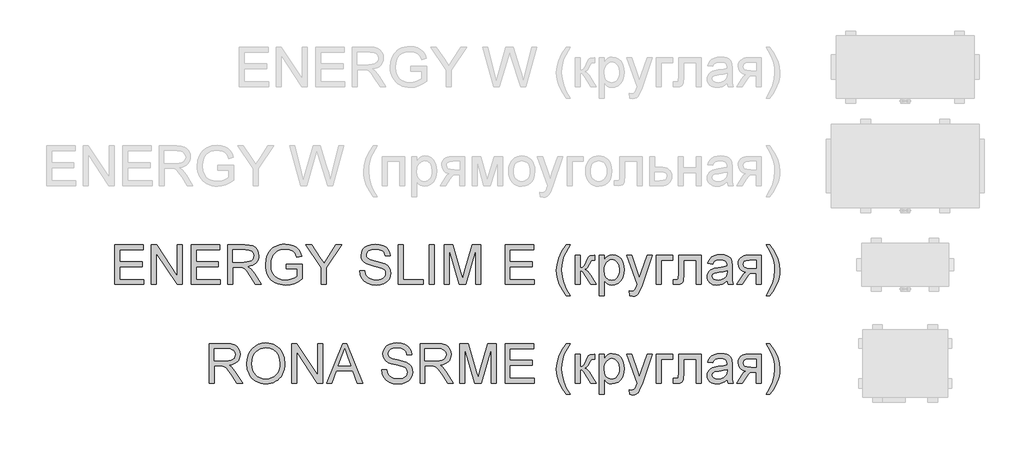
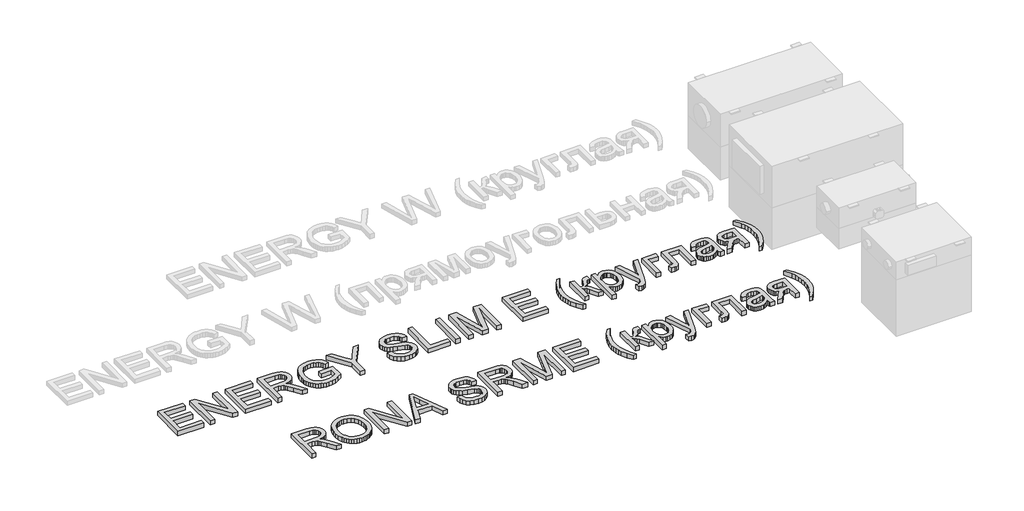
# One storey, part 21 of 28: 2 proxies.
"""IFC4 building model written with IfcOpenShell, lengths in millimetres."""

from ifc_helpers import new_model, si_unit, origin, origin_with_axes, place, context, project, spatial, polyline, outline, extrude, element, save

model = new_model("IFC4")

# Units and contexts
model_context = context("Model", 3, world=origin())
ifc_project = project(units=[si_unit("LENGTHUNIT", "METRE", prefix="MILLI")], contexts=[model_context])

# Site, building, storey
site = spatial("IfcSite", under=ifc_project)
building = spatial("IfcBuilding", under=site)
storey = spatial("IfcBuildingStorey", under=building, Name="Уровень 1", Elevation=0.0)

# Proxies
placement = place(None, origin())
element("IfcBuildingElementProxy", 1, Name="400 мм Arial", ObjectType="400 мм Arial", at=placement, inside=storey, context=model_context, shape_type="SweptSolid", body=[
    extrude(outline(polyline([(-28678.009371, 14271.3067858), (-28678.009371, 14673.1320263), (-28389.1974793, 14673.1320263), (-28389.1974793, 14622.9038713), (-28627.7812159, 14622.9038713), (-28627.7812159, 14503.612003), (-28401.7545181, 14503.612003), (-28401.7545181, 14453.3838479), (-28627.7812159, 14453.3838479), (-28627.7812159, 14321.5349408), (-28382.91896, 14321.5349408), (-28382.91896, 14271.3067858), (-28678.009371, 14271.3067858)])), origin_with_axes(), (0.0, 0.0, 1.0), 50.0),
    extrude(outline(polyline([(-28307.5767273, 14271.3067858), (-28307.5767273, 14673.1320263), (-28253.8169051, 14673.1320263), (-28043.8789132, 14354.7914732), (-28043.8789132, 14673.1320263), (-27993.6507581, 14673.1320263), (-27993.6507581, 14271.3067858), (-28047.4105804, 14271.3067858), (-28257.3485723, 14589.7454408), (-28257.3485723, 14271.3067858), (-28307.5767273, 14271.3067858)])), origin_with_axes(), (0.0, 0.0, 1.0), 50.0),
    extrude(outline(polyline([(-27905.7514867, 14271.3067858), (-27905.7514867, 14673.1320263), (-27616.9395951, 14673.1320263), (-27616.9395951, 14622.9038713), (-27855.5233317, 14622.9038713), (-27855.5233317, 14503.612003), (-27629.4966338, 14503.612003), (-27629.4966338, 14453.3838479), (-27855.5233317, 14453.3838479), (-27855.5233317, 14321.5349408), (-27610.6610757, 14321.5349408), (-27610.6610757, 14271.3067858), (-27905.7514867, 14271.3067858)])), origin_with_axes(), (0.0, 0.0, 1.0), 50.0),
    extrude(outline(polyline([(-27535.3188431, 14271.3067858), (-27535.3188431, 14673.1320263), (-27362.1690507, 14673.1320263), (-27315.6319783, 14670.4219623), (-27281.774572, 14662.2917702), (-27257.0283765, 14647.2821848), (-27237.8249363, 14623.9339409), (-27225.5008895, 14594.9816278), (-27221.3928739, 14563.1598353), (-27223.0943281, 14542.5216553), (-27228.1986908, 14523.5757326), (-27236.7059619, 14506.322067), (-27248.6161415, 14490.7606586), (-27264.0825137, 14477.3881481), (-27283.2583627, 14466.7011761), (-27306.1436885, 14458.6997427), (-27332.7384911, 14453.3838479), (-27304.1908482, 14431.8995394), (-27263.4785741, 14380.1998563), (-27196.475, 14271.3067858), (-27254.8456099, 14271.3067858), (-27307.1339042, 14354.5952695), (-27344.9031224, 14409.7285178), (-27358.9439518, 14425.804961), (-27371.439677, 14435.7745631), (-27395.3274812, 14445.3394949), (-27424.4637352, 14447.1053285), (-27485.090688, 14447.1053285), (-27485.090688, 14271.3067858), (-27535.3188431, 14271.3067858)]), holes=[polyline([(-27485.090688, 14497.3334836), (-27372.6659503, 14497.3334836), (-27340.3781738, 14499.1115799), (-27315.32541, 14504.4458688), (-27296.4653263, 14513.6919696), (-27282.7555906, 14527.2055016), (-27274.4046694, 14543.5517249), (-27271.6210289, 14561.2958998), (-27276.9307924, 14585.7968407), (-27292.8600828, 14605.5398411), (-27305.0216484, 14613.1366043), (-27320.2672914, 14618.5628637), (-27360.0108096, 14622.9038713), (-27485.090688, 14622.9038713), (-27485.090688, 14497.3334836)])]), origin_with_axes(), (0.0, 0.0, 1.0), 50.0),
    extrude(outline(polyline([(-26945.1380209, 14428.2697704), (-26945.1380209, 14478.4979254), (-26781.8965169, 14478.4979254), (-26781.8965169, 14328.3039695), (-26821.5664588, 14300.7128199), (-26862.4871994, 14280.9207686), (-26904.5606369, 14269.0013919), (-26947.6886694, 14265.0282664), (-26976.5398149, 14266.6070933), (-27004.0359284, 14271.343574), (-27030.1770098, 14279.2377084), (-27054.9630592, 14290.2894967), (-27077.5939333, 14304.3333919), (-27097.2694887, 14321.203847), (-27113.9897254, 14340.9008622), (-27127.7546433, 14363.4244373), (-27138.5059947, 14388.0541369), (-27146.1855313, 14414.0695253), (-27150.7932533, 14441.4706026), (-27152.3291606, 14470.2573687), (-27146.2100568, 14526.8498823), (-27138.561177, 14553.6654141), (-27127.8527452, 14579.4937958), (-27114.2748339, 14603.2007247), (-27098.0175154, 14623.651898), (-27079.0807897, 14640.8473156), (-27057.4646568, 14654.7869775), (-27033.6381662, 14665.5597886), (-27008.0703676, 14673.2546537), (-26980.7612608, 14677.8715727), (-26951.7108459, 14679.4105457), (-26910.3363842, 14675.8420904), (-26873.1312518, 14665.1367243), (-26841.7999685, 14648.0669997), (-26818.0470543, 14625.4054688), (-26800.4745577, 14596.0607484), (-26787.684527, 14558.941455), (-26833.9886075, 14545.893907), (-26844.3260915, 14572.3691479), (-26856.895393, 14592.3451402), (-26873.5236592, 14607.4037765), (-26896.0380373, 14619.1269495), (-26922.8811602, 14626.6685304), (-26952.4956608, 14629.1823907), (-26987.1624075, 14626.4723266), (-27016.8014336, 14618.3421345), (-27041.3023745, 14605.8096212), (-27060.5548656, 14589.8925936), (-27075.331459, 14571.4126547), (-27086.4047071, 14551.1914077), (-27098.1769309, 14513.2750367), (-27102.1010055, 14472.3175079), (-27097.3798533, 14424.2843821), (-27083.2163965, 14384.7615931), (-27060.0398308, 14354.0311837), (-27028.2793519, 14332.375197), (-26991.1110076, 14319.5361153), (-26951.7108459, 14315.2564214), (-26916.9214719, 14318.4815203), (-26882.9904892, 14328.1568167), (-26853.5231414, 14341.4864077), (-26832.124672, 14355.67439), (-26832.124672, 14428.2697704), (-26945.1380209, 14428.2697704)])), origin_with_axes(), (0.0, 0.0, 1.0), 50.0),
    extrude(outline(polyline([(-26587.262416, 14271.3067858), (-26587.262416, 14441.5135222), (-26744.2254006, 14673.1320263), (-26684.971874, 14673.1320263), (-26601.1928809, 14549.4255741), (-26558.3223657, 14486.3460747), (-26515.3537487, 14553.9382599), (-26439.324803, 14673.1320263), (-26380.0712763, 14673.1320263), (-26537.034261, 14441.5135222), (-26537.034261, 14271.3067858), (-26587.262416, 14271.3067858)])), origin_with_axes(), (0.0, 0.0, 1.0), 50.0),
    extrude(outline(polyline([(-26197.9942142, 14409.4342122), (-26147.7660591, 14409.4342122), (-26142.0025745, 14381.5610197), (-26131.5792513, 14359.1570062), (-26115.3188672, 14341.3760431), (-26092.0441996, 14327.3720018), (-26063.5946586, 14318.2853165), (-26031.8096542, 14315.2564214), (-26003.8260971, 14317.5495525), (-25979.3251563, 14324.4289459), (-25959.4717913, 14335.3182529), (-25945.4309618, 14349.6411253), (-25937.0800405, 14366.0854504), (-25934.2964001, 14383.339116), (-25936.3810647, 14400.1513232), (-25942.6350586, 14414.682662), (-25955.3392502, 14427.0802852), (-25976.7745078, 14437.4913457), (-26049.9094484, 14456.6702604), (-26097.9180488, 14469.3621892), (-26128.6361954, 14481.4409814), (-26153.6399083, 14498.3390277), (-26171.3595578, 14518.8177921), (-26181.917771, 14542.4358162), (-26185.4371754, 14568.7516416), (-26181.0839052, 14598.1699385), (-26168.0240943, 14625.6016726), (-26146.6010995, 14648.8518147), (-26117.1582771, 14665.7253355), (-26081.8170801, 14675.9892432), (-26042.6989613, 14679.4105457), (-26000.3189555, 14675.8298276), (-25963.2364503, 14665.0876734), (-25932.7758211, 14647.4048122), (-25910.261443, 14623.0019731), (-25896.0121471, 14593.3997353), (-25890.3467644, 14560.1186774), (-25940.5749194, 14560.1186774), (-25949.7964948, 14590.0887973), (-25958.1596788, 14601.9468603), (-25969.0244604, 14611.7202586), (-25999.0681567, 14624.8168576), (-26040.736924, 14629.1823907), (-26083.38671, 14624.8659086), (-26099.6900137, 14619.470306), (-26112.6455913, 14611.9164624), (-26129.5681631, 14592.860175), (-26135.2090204, 14570.2231696), (-26131.2113693, 14550.9216276), (-26119.2184163, 14535.3970074), (-26090.8669772, 14521.5155934), (-26037.2052568, 14507.3398739), (-25981.8267538, 14493.8753928), (-25948.3249668, 14482.1276945), (-25919.6914849, 14463.905273), (-25899.7154925, 14441.4154203), (-25887.9800569, 14414.9033912), (-25884.068245, 14384.6144403), (-25888.5686681, 14353.651039), (-25902.0699373, 14324.5270477), (-25924.0202297, 14299.4620211), (-25953.8677222, 14280.6755139), (-25989.7607422, 14268.9400782), (-26029.8476169, 14265.0282664), (-26079.0579652, 14269.2466466), (-26119.5617728, 14281.9017872), (-26151.8250238, 14303.0427392), (-26176.313702, 14332.7185535), (-26192.0345259, 14368.8690909), (-26197.9942142, 14409.4342122)])), origin_with_axes(), (0.0, 0.0, 1.0), 50.0),
    extrude(outline(polyline([(-25808.7260124, 14271.3067858), (-25808.7260124, 14673.1320263), (-25758.4978573, 14673.1320263), (-25758.4978573, 14321.5349408), (-25557.585237, 14321.5349408), (-25557.585237, 14271.3067858), (-25808.7260124, 14271.3067858)])), origin_with_axes(), (0.0, 0.0, 1.0), 50.0),
    extrude(outline(polyline([(-25494.8000432, 14271.3067858), (-25494.8000432, 14673.1320263), (-25444.5718881, 14673.1320263), (-25444.5718881, 14271.3067858), (-25494.8000432, 14271.3067858)])), origin_with_axes(), (0.0, 0.0, 1.0), 50.0),
    extrude(outline(polyline([(-25344.1155779, 14271.3067858), (-25344.1155779, 14673.1320263), (-25257.6878345, 14673.1320263), (-25175.4784713, 14389.911941), (-25158.8992561, 14330.7565162), (-25140.9466147, 14394.8170343), (-25060.1106777, 14673.1320263), (-24973.6829343, 14673.1320263), (-24973.6829343, 14271.3067858), (-25023.9110893, 14271.3067858), (-25023.9110893, 14622.9038713), (-25124.8579088, 14271.3067858), (-25192.9406034, 14271.3067858), (-25293.8874229, 14622.9038713), (-25293.8874229, 14271.3067858), (-25344.1155779, 14271.3067858)])), origin_with_axes(), (0.0, 0.0, 1.0), 50.0),
    extrude(outline(polyline([(-24728.8206783, 14271.3067858), (-24728.8206783, 14673.1320263), (-24440.0087866, 14673.1320263), (-24440.0087866, 14622.9038713), (-24678.5925232, 14622.9038713), (-24678.5925232, 14503.612003), (-24452.5658254, 14503.612003), (-24452.5658254, 14453.3838479), (-24678.5925232, 14453.3838479), (-24678.5925232, 14321.5349408), (-24433.7302672, 14321.5349408), (-24433.7302672, 14271.3067858), (-24728.8206783, 14271.3067858)])), origin_with_axes(), (0.0, 0.0, 1.0), 50.0),
    extrude(outline(polyline([(-24107.2472592, 14158.2934368), (-24146.1691743, 14212.9116504), (-24178.5673153, 14276.1137772), (-24191.3144265, 14310.1673872), (-24200.4195059, 14344.8341339), (-24205.8825535, 14380.1140172), (-24207.7035694, 14416.0070372), (-24202.2589158, 14478.424349), (-24185.9249552, 14538.1438596), (-24153.5022887, 14605.7850958), (-24107.2472592, 14673.1320263), (-24069.5761429, 14673.1320263), (-24116.5669364, 14593.5714135), (-24132.6065914, 14555.8021954), (-24144.8202737, 14516.4633473), (-24154.3116291, 14466.2106668), (-24157.4754143, 14415.7127316), (-24151.9817098, 14351.3211197), (-24135.5005964, 14286.9540333), (-24108.0320741, 14222.6114723), (-24069.5761429, 14158.2934368), (-24107.2472592, 14158.2934368)])), origin_with_axes(), (0.0, 0.0, 1.0), 50.0),
    extrude(outline(polyline([(-24019.3479878, 14566.3971968), (-23969.1198328, 14566.3971968), (-23969.1198328, 14440.8268091), (-23948.6901193, 14443.083152), (-23935.4708929, 14449.8521807), (-23923.7722455, 14467.5105165), (-23907.9042688, 14502.4347806), (-23884.9974832, 14547.8068933), (-23875.5551787, 14556.967155), (-23864.7884989, 14562.5712241), (-23828.0493503, 14566.3971968), (-23818.4353675, 14566.3971968), (-23818.4353675, 14515.8747361), (-23831.973425, 14516.1690417), (-23847.6697234, 14514.8446666), (-23856.4988913, 14510.871541), (-23873.7648196, 14477.8112124), (-23884.3720838, 14455.7750809), (-23894.0228548, 14442.0530824), (-23905.7092395, 14432.8928208), (-23922.4233448, 14424.5418995), (-23906.5063172, 14417.4724338), (-23890.7364423, 14404.9951028), (-23875.1137203, 14387.1099065), (-23859.638151, 14363.8168448), (-23805.8783288, 14271.3067858), (-23862.9736144, 14271.3067858), (-23915.6543161, 14361.8548075), (-23929.8790866, 14385.9510782), (-23942.1418198, 14400.1635859), (-23954.5271803, 14407.1165556), (-23969.1198328, 14409.4342122), (-23969.1198328, 14271.3067858), (-24019.3479878, 14271.3067858), (-24019.3479878, 14566.3971968)])), origin_with_axes(), (0.0, 0.0, 1.0), 50.0),
    extrude(outline(polyline([(-23774.4857318, 14158.2934368), (-23774.4857318, 14566.3971968), (-23724.2575768, 14566.3971968), (-23724.2575768, 14517.1500604), (-23707.8745653, 14541.4425348), (-23689.5295164, 14558.7943022), (-23668.1433098, 14569.2053627), (-23642.6368248, 14572.6757162), (-23608.6690539, 14567.8196739), (-23578.9687141, 14553.2515469), (-23554.7866043, 14529.854252), (-23537.3735232, 14498.510706), (-23526.8520982, 14461.5017773), (-23523.3449565, 14421.1083342), (-23527.3058193, 14378.1519799), (-23539.1884077, 14339.7328369), (-23558.6125771, 14307.8006797), (-23585.1981826, 14284.3052829), (-23616.1615839, 14269.8475205), (-23648.7191404, 14265.0282664), (-23671.809867, 14268.2533652), (-23692.4235215, 14277.9286617), (-23710.0695945, 14292.5335769), (-23724.2575768, 14310.5475319), (-23724.2575768, 14158.2934368), (-23774.4857318, 14158.2934368)]), holes=[polyline([(-23724.2575768, 14416.4975465), (-23718.825186, 14371.4687903), (-23712.0346975, 14354.0311837), (-23702.5280136, 14339.9780915), (-23678.4807938, 14321.436839), (-23664.7189415, 14316.8015258), (-23649.7982609, 14315.2564214), (-23634.6629825, 14316.8567081), (-23620.6497442, 14321.6575682), (-23607.7585459, 14329.6590016), (-23595.9893878, 14340.8610083), (-23586.1822669, 14355.4230039), (-23579.1771806, 14373.504404), (-23574.9741288, 14395.1052085), (-23573.5731115, 14420.2254174), (-23579.0422905, 14465.0089189), (-23585.8787643, 14482.5814156), (-23595.4498275, 14496.9410761), (-23619.4602591, 14516.0709399), (-23633.0657615, 14520.8534058), (-23647.7381218, 14522.4475611), (-23662.3644968, 14520.7522383), (-23676.1263491, 14515.6662697), (-23701.0564856, 14495.3223953), (-23711.206963, 14480.2239051), (-23718.457304, 14462.0536003), (-23722.8075086, 14440.8114807), (-23724.2575768, 14416.4975465)])]), origin_with_axes(), (0.0, 0.0, 1.0), 50.0),
    extrude(outline(polyline([(-23466.838282, 14158.2934368), (-23473.1168014, 14206.6576565), (-23447.6103164, 14202.2430725), (-23434.1948863, 14203.6287614), (-23423.7715631, 14207.7858279), (-23409.1543852, 14223.2368717), (-23395.420124, 14260.221275), (-23391.4960494, 14272.3859063), (-23498.2308789, 14566.3971968), (-23445.2558716, 14566.3971968), (-23388.6510953, 14402.5670816), (-23368.9326204, 14337.0350356), (-23349.2141454, 14394.9151361), (-23291.0397392, 14566.3971968), (-23238.4571394, 14566.3971968), (-23341.1697925, 14264.2434514), (-23367.8534998, 14198.7114054), (-23381.5141846, 14177.7911826), (-23396.9897539, 14163.296632), (-23414.9669207, 14154.8353461), (-23436.1323981, 14152.0149174), (-23466.838282, 14158.2934368)])), origin_with_axes(), (0.0, 0.0, 1.0), 50.0),
    extrude(outline(polyline([(-23196.8619485, 14566.3971968), (-23033.6204445, 14566.3971968), (-23033.6204445, 14516.1690417), (-23146.6337934, 14516.1690417), (-23146.6337934, 14271.3067858), (-23196.8619485, 14271.3067858), (-23196.8619485, 14566.3971968)])), origin_with_axes(), (0.0, 0.0, 1.0), 50.0),
    extrude(outline(polyline([(-22970.8352506, 14566.3971968), (-22744.8085528, 14566.3971968), (-22744.8085528, 14271.6010913), (-22795.0367079, 14271.6010913), (-22795.0367079, 14516.1690417), (-22920.6070956, 14516.1690417), (-22920.6070956, 14375.3928649), (-22923.9916099, 14310.44943), (-22930.331443, 14295.746413), (-22942.5819134, 14283.0299587), (-22961.1722169, 14274.237579), (-22986.5315491, 14271.3067858), (-23027.3419251, 14273.8574343), (-23027.3419251, 14321.5349408), (-23004.8765979, 14321.5349408), (-22982.1660161, 14324.6251496), (-22973.0915936, 14334.4353361), (-22970.8352506, 14378.237819), (-22970.8352506, 14566.3971968)])), origin_with_axes(), (0.0, 0.0, 1.0), 50.0),
    extrude(outline(polyline([(-22481.1107387, 14308.9779021), (-22505.1089075, 14288.4010358), (-22529.8183148, 14274.9365548), (-22555.8030464, 14267.5053385), (-22583.627188, 14265.0282664), (-22605.9913476, 14266.5181884), (-22625.6025236, 14270.9879547), (-22642.4607161, 14278.4375651), (-22656.5659249, 14288.8670197), (-22667.7035523, 14301.6141308), (-22675.6590005, 14316.0167109), (-22680.4322693, 14332.07476), (-22682.023359, 14349.7882781), (-22679.6198633, 14370.610399), (-22672.4093762, 14389.5195335), (-22661.2870772, 14405.7063413), (-22647.1481458, 14418.361482), (-22630.5321424, 14427.9264138), (-22611.9786271, 14434.8425953), (-22568.5195007, 14442.396439), (-22517.1631742, 14450.3426901), (-22481.4050443, 14459.6623673), (-22481.1107387, 14470.8459799), (-22484.5688294, 14493.2622562), (-22494.9431017, 14507.928485), (-22518.1441928, 14518.8177921), (-22550.4687575, 14522.4475611), (-22580.3898264, 14520.0318027), (-22601.2855238, 14512.7845274), (-22615.5348197, 14499.38136), (-22625.5166845, 14478.4979254), (-22675.7448396, 14484.7764448), (-22667.0260363, 14512.2449671), (-22654.0152764, 14533.8273775), (-22635.4985493, 14550.3330164), (-22610.2618444, 14562.5712241), (-22579.396545, 14570.1495932), (-22543.9940344, 14572.6757162), (-22510.0385262, 14570.4438988), (-22483.1218269, 14563.7484465), (-22462.8270035, 14553.6807425), (-22448.7371231, 14541.3321702), (-22439.3929204, 14526.0650674), (-22433.3351302, 14507.241772), (-22430.8825836, 14463.2921363), (-22430.8825836, 14400.8012481), (-22428.3319351, 14313.5396388), (-22418.3255448, 14271.3067858), (-22468.5536999, 14271.3067858), (-22476.5980529, 14288.7689178), (-22481.1107387, 14308.9779021)]), holes=[polyline([(-22481.1107387, 14409.4342122), (-22514.8577804, 14401.0710282), (-22562.1428795, 14394.0322193), (-22605.3567512, 14385.8897645), (-22616.6016775, 14380.3224837), (-22624.9280733, 14372.6460127), (-22630.0784212, 14363.4489628), (-22631.7952039, 14353.3199452), (-22628.0550703, 14338.3839362), (-22616.8346694, 14326.1457285), (-22598.379256, 14317.9787482), (-22572.9340847, 14315.2564214), (-22545.9560717, 14318.2607911), (-22522.1173184, 14327.2739), (-22502.7912509, 14340.55444), (-22489.3512954, 14356.361103), (-22483.391607, 14372.6460127), (-22481.4050443, 14395.2094417), (-22481.1107387, 14409.4342122)])]), origin_with_axes(), (0.0, 0.0, 1.0), 50.0),
    extrude(outline(polyline([(-22135.7921725, 14566.3971968), (-22135.7921725, 14271.3067858), (-22186.0203276, 14271.3067858), (-22186.0203276, 14384.3201347), (-22213.390748, 14384.3201347), (-22235.2184131, 14382.7259794), (-22250.6694569, 14377.9435134), (-22265.556415, 14364.037574), (-22285.6918228, 14335.0729982), (-22325.7173839, 14271.3067858), (-22383.7936882, 14271.3067858), (-22333.3693294, 14351.9465191), (-22311.100206, 14380.8865694), (-22290.5969161, 14393.7379137), (-22324.932569, 14404.2593388), (-22338.2744227, 14413.0701126), (-22349.0656279, 14424.2475939), (-22363.3394493, 14450.8331994), (-22368.0973897, 14481.1466758), (-22366.4725776, 14499.2342072), (-22361.5981412, 14515.5313796), (-22353.4740804, 14530.038193), (-22342.1003954, 14542.7546473), (-22327.6487644, 14553.0982627), (-22310.2908656, 14560.4865594), (-22290.026699, 14564.9195375), (-22266.8562647, 14566.3971968), (-22135.7921725, 14566.3971968)]), holes=[polyline([(-22186.0203276, 14516.1690417), (-22252.2390867, 14516.1690417), (-22286.4398496, 14513.262774), (-22305.8517562, 14504.5439707), (-22314.864865, 14491.9256183), (-22317.8692347, 14477.3207031), (-22313.442388, 14458.1785766), (-22300.161848, 14444.8980365), (-22275.6241189, 14437.1357264), (-22237.4257051, 14434.5482897), (-22186.0203276, 14434.5482897), (-22186.0203276, 14516.1690417)])]), origin_with_axes(), (0.0, 0.0, 1.0), 50.0),
    extrude(outline(polyline([(-22047.8929011, 14158.2934368), (-22085.5640175, 14158.2934368), (-22047.1080862, 14222.6114723), (-22019.6395639, 14286.9540333), (-22003.1584505, 14351.3211197), (-21997.6647461, 14415.7127316), (-22000.8285312, 14465.8427848), (-22010.3198867, 14515.5804305), (-22022.3128397, 14554.992855), (-22038.2789183, 14592.7865986), (-22085.5640175, 14673.1320263), (-22047.8929011, 14673.1320263), (-22001.6378716, 14605.7850958), (-21969.2152051, 14538.1438596), (-21952.8812445, 14478.424349), (-21947.436591, 14416.0070372), (-21949.2668039, 14380.1140172), (-21954.7574427, 14344.8341339), (-21963.9085073, 14310.1673872), (-21976.7199978, 14276.1137772), (-22009.1549271, 14212.9116504), (-22047.8929011, 14158.2934368)])), origin_with_axes(), (0.0, 0.0, 1.0), 50.0),
])
element("IfcBuildingElementProxy", 2, Name="400 мм Arial", ObjectType="400 мм Arial", at=placement, inside=storey, context=model_context, shape_type="SweptSolid", body=[
    extrude(outline(polyline([(-27723.6744246, 13271.3067858), (-27723.6744246, 13673.1320263), (-27550.5246322, 13673.1320263), (-27503.9875598, 13670.4219623), (-27470.1301535, 13662.2917702), (-27445.383958, 13647.2821848), (-27426.1805178, 13623.9339409), (-27413.856471, 13594.9816278), (-27409.7484554, 13563.1598353), (-27411.4499096, 13542.5216553), (-27416.5542723, 13523.5757326), (-27425.0615434, 13506.322067), (-27436.971723, 13490.7606586), (-27452.4380952, 13477.3881481), (-27471.6139442, 13466.7011761), (-27494.49927, 13458.6997427), (-27521.0940726, 13453.3838479), (-27492.5464298, 13431.8995394), (-27451.8341556, 13380.1998563), (-27384.8305816, 13271.3067858), (-27443.2011915, 13271.3067858), (-27495.4894857, 13354.5952695), (-27533.2587039, 13409.7285178), (-27547.2995334, 13425.804961), (-27559.7952585, 13435.7745631), (-27583.6830627, 13445.3394949), (-27612.8193167, 13447.1053285), (-27673.4462695, 13447.1053285), (-27673.4462695, 13271.3067858), (-27723.6744246, 13271.3067858)]), holes=[polyline([(-27673.4462695, 13497.3334836), (-27561.0215318, 13497.3334836), (-27528.7337554, 13499.1115799), (-27503.6809915, 13504.4458688), (-27484.8209079, 13513.6919696), (-27471.1111722, 13527.2055016), (-27462.7602509, 13543.5517249), (-27459.9766105, 13561.2958998), (-27465.2863739, 13585.7968407), (-27481.2156643, 13605.5398411), (-27493.3772299, 13613.1366043), (-27508.622873, 13618.5628637), (-27548.3663912, 13622.9038713), (-27673.4462695, 13622.9038713), (-27673.4462695, 13497.3334836)])]), origin_with_axes(), (0.0, 0.0, 1.0), 50.0),
    extrude(outline(polyline([(-27340.6847422, 13466.9219053), (-27337.337016, 13514.0537203), (-27327.2938375, 13555.7776699), (-27310.5552067, 13592.0937542), (-27287.1211237, 13623.0019731), (-27258.3956712, 13647.6807237), (-27225.7829323, 13665.3084026), (-27189.282907, 13675.8850099), (-27148.8955953, 13679.4105457), (-27121.8624001, 13677.7550768), (-27096.1903682, 13672.7886698), (-27071.8794996, 13664.5113249), (-27048.9297945, 13652.9230421), (-27027.9850463, 13638.3733092), (-27009.6890484, 13621.2116141), (-26994.0418008, 13601.4379569), (-26981.0433037, 13579.0523374), (-26970.8284469, 13554.5636593), (-26963.5321207, 13528.4808258), (-26957.6950597, 13471.532693), (-26959.230967, 13441.8752728), (-26963.838689, 13413.8242707), (-26971.5182257, 13387.3796866), (-26982.269577, 13362.5415206), (-26995.8382912, 13339.9658288), (-27011.9699167, 13320.3086675), (-27030.6644535, 13303.5700367), (-27051.9219014, 13289.7499364), (-27074.9053291, 13278.9342058), (-27098.7778049, 13271.2086839), (-27123.5393288, 13266.5733707), (-27149.1899009, 13265.0282664), (-27176.6952114, 13266.735852), (-27202.7044685, 13271.8586087), (-27227.2176721, 13280.3965367), (-27250.2348223, 13292.3496359), (-27271.1550451, 13307.254988), (-27289.3774666, 13324.6496751), (-27304.9020868, 13344.5336969), (-27317.7289057, 13366.9070536), (-27334.945783, 13415.5287906), (-27340.6847422, 13466.9219053)]), holes=[polyline([(-27290.4565871, 13466.431396), (-27287.9457925, 13433.1319441), (-27280.4134086, 13403.5726258), (-27267.8594355, 13377.7534411), (-27250.2838732, 13355.67439), (-27228.9191263, 13337.9915287), (-27204.9975996, 13325.3609136), (-27178.519293, 13317.7825445), (-27149.4842065, 13315.2564214), (-27119.9524794, 13317.8070699), (-27093.1614731, 13325.4590154), (-27069.1111876, 13338.2122579), (-27047.8016231, 13356.0667974), (-27030.3548194, 13378.6118324), (-27017.8928169, 13405.4365612), (-27010.4156153, 13436.5409839), (-27007.9232148, 13471.9251005), (-27012.1906459, 13516.3897709), (-27024.9929394, 13554.8211767), (-27045.9990013, 13586.2505618), (-27074.8777379, 13609.7091704), (-27109.7161628, 13624.3140856), (-27148.6012897, 13629.1823907), (-27176.6277664, 13626.8371429), (-27202.6308921, 13619.8013998), (-27226.6106668, 13608.0751612), (-27248.5670906, 13591.6584272), (-27266.8937453, 13569.7602514), (-27279.984213, 13541.5896876), (-27287.8384935, 13507.1467358), (-27290.4565871, 13466.431396)])]), origin_with_axes(), (0.0, 0.0, 1.0), 50.0),
    extrude(outline(polyline([(-26888.6313465, 13271.3067858), (-26888.6313465, 13673.1320263), (-26834.8715243, 13673.1320263), (-26624.9335323, 13354.7914732), (-26624.9335323, 13673.1320263), (-26574.7053773, 13673.1320263), (-26574.7053773, 13271.3067858), (-26628.4651995, 13271.3067858), (-26838.4031914, 13589.7454408), (-26838.4031914, 13271.3067858), (-26888.6313465, 13271.3067858)])), origin_with_axes(), (0.0, 0.0, 1.0), 50.0),
    extrude(outline(polyline([(-26533.6006957, 13271.3067858), (-26373.2041458, 13673.1320263), (-26330.4317325, 13673.1320263), (-26170.0351826, 13271.3067858), (-26223.1082917, 13271.3067858), (-26269.1180666, 13396.8771734), (-26434.6159135, 13396.8771734), (-26480.5275865, 13271.3067858), (-26533.6006957, 13271.3067858)]), holes=[polyline([(-26416.1727628, 13447.1053285), (-26287.4631154, 13447.1053285), (-26323.6627038, 13545.893907), (-26351.8179391, 13622.9038713), (-26376.8339148, 13554.5268711), (-26416.1727628, 13447.1053285)])]), origin_with_axes(), (0.0, 0.0, 1.0), 50.0),
    extrude(outline(polyline([(-25978.2460358, 13409.4342122), (-25928.0178807, 13409.4342122), (-25922.2543961, 13381.5610197), (-25911.8310729, 13359.1570062), (-25895.5706887, 13341.3760431), (-25872.2960211, 13327.3720018), (-25843.8464802, 13318.2853165), (-25812.0614758, 13315.2564214), (-25784.0779187, 13317.5495525), (-25759.5769778, 13324.4289459), (-25739.7236128, 13335.3182529), (-25725.6827833, 13349.6411253), (-25717.331862, 13366.0854504), (-25714.5482216, 13383.339116), (-25716.6328862, 13400.1513232), (-25722.8868802, 13414.682662), (-25735.5910717, 13427.0802852), (-25757.0263293, 13437.4913457), (-25830.16127, 13456.6702604), (-25878.1698703, 13469.3621892), (-25908.8880169, 13481.4409814), (-25933.8917299, 13498.3390277), (-25951.6113793, 13518.8177921), (-25962.1695926, 13542.4358162), (-25965.688997, 13568.7516416), (-25961.3357267, 13598.1699385), (-25948.2759159, 13625.6016726), (-25926.852921, 13648.8518147), (-25897.4100987, 13665.7253355), (-25862.0689017, 13675.9892432), (-25822.9507829, 13679.4105457), (-25780.570777, 13675.8298276), (-25743.4882719, 13665.0876734), (-25713.0276427, 13647.4048122), (-25690.5132646, 13623.0019731), (-25676.2639686, 13593.3997353), (-25670.5985859, 13560.1186774), (-25720.826741, 13560.1186774), (-25730.0483163, 13590.0887973), (-25738.4115004, 13601.9468603), (-25749.276282, 13611.7202586), (-25779.3199782, 13624.8168576), (-25820.9887455, 13629.1823907), (-25863.6385315, 13624.8659086), (-25879.9418353, 13619.470306), (-25892.8974129, 13611.9164624), (-25909.8199846, 13592.860175), (-25915.4608419, 13570.2231696), (-25911.4631909, 13550.9216276), (-25899.4702379, 13535.3970074), (-25871.1187988, 13521.5155934), (-25817.4570784, 13507.3398739), (-25762.0785754, 13493.8753928), (-25728.5767884, 13482.1276945), (-25699.9433064, 13463.905273), (-25679.9673141, 13441.4154203), (-25668.2318784, 13414.9033912), (-25664.3200665, 13384.6144403), (-25668.8204896, 13353.651039), (-25682.3217588, 13324.5270477), (-25704.2720512, 13299.4620211), (-25734.1195438, 13280.6755139), (-25770.0125637, 13268.9400782), (-25810.0994385, 13265.0282664), (-25859.3097867, 13269.2466466), (-25899.8135944, 13281.9017872), (-25932.0768454, 13303.0427392), (-25956.5655235, 13332.7185535), (-25972.2863474, 13368.8690909), (-25978.2460358, 13409.4342122)])), origin_with_axes(), (0.0, 0.0, 1.0), 50.0),
    extrude(outline(polyline([(-25588.9778339, 13271.3067858), (-25588.9778339, 13673.1320263), (-25415.8280415, 13673.1320263), (-25369.2909691, 13670.4219623), (-25335.4335628, 13662.2917702), (-25310.6873673, 13647.2821848), (-25291.4839272, 13623.9339409), (-25279.1598803, 13594.9816278), (-25275.0518647, 13563.1598353), (-25276.7533189, 13542.5216553), (-25281.8576816, 13523.5757326), (-25290.3649528, 13506.322067), (-25302.2751323, 13490.7606586), (-25317.7415046, 13477.3881481), (-25336.9173536, 13466.7011761), (-25359.8026793, 13458.6997427), (-25386.3974819, 13453.3838479), (-25357.8498391, 13431.8995394), (-25317.137565, 13380.1998563), (-25250.1339909, 13271.3067858), (-25308.5046008, 13271.3067858), (-25360.792895, 13354.5952695), (-25398.5621132, 13409.7285178), (-25412.6029427, 13425.804961), (-25425.0986678, 13435.7745631), (-25448.986472, 13445.3394949), (-25478.122726, 13447.1053285), (-25538.7496788, 13447.1053285), (-25538.7496788, 13271.3067858), (-25588.9778339, 13271.3067858)]), holes=[polyline([(-25538.7496788, 13497.3334836), (-25426.3249411, 13497.3334836), (-25394.0371647, 13499.1115799), (-25368.9844008, 13504.4458688), (-25350.1243172, 13513.6919696), (-25336.4145815, 13527.2055016), (-25328.0636602, 13543.5517249), (-25325.2800198, 13561.2958998), (-25330.5897832, 13585.7968407), (-25346.5190736, 13605.5398411), (-25358.6806393, 13613.1366043), (-25373.9262823, 13618.5628637), (-25413.6698005, 13622.9038713), (-25538.7496788, 13622.9038713), (-25538.7496788, 13497.3334836)])]), origin_with_axes(), (0.0, 0.0, 1.0), 50.0),
    extrude(outline(polyline([(-25187.1525933, 13271.3067858), (-25187.1525933, 13673.1320263), (-25100.7248499, 13673.1320263), (-25018.5154867, 13389.911941), (-25001.9362715, 13330.7565162), (-24983.9836301, 13394.8170343), (-24903.147693, 13673.1320263), (-24816.7199496, 13673.1320263), (-24816.7199496, 13271.3067858), (-24866.9481047, 13271.3067858), (-24866.9481047, 13622.9038713), (-24967.8949242, 13271.3067858), (-25035.9776188, 13271.3067858), (-25136.9244382, 13622.9038713), (-25136.9244382, 13271.3067858), (-25187.1525933, 13271.3067858)])), origin_with_axes(), (0.0, 0.0, 1.0), 50.0),
    extrude(outline(polyline([(-24728.8206783, 13271.3067858), (-24728.8206783, 13673.1320263), (-24440.0087866, 13673.1320263), (-24440.0087866, 13622.9038713), (-24678.5925232, 13622.9038713), (-24678.5925232, 13503.612003), (-24452.5658254, 13503.612003), (-24452.5658254, 13453.3838479), (-24678.5925232, 13453.3838479), (-24678.5925232, 13321.5349408), (-24433.7302672, 13321.5349408), (-24433.7302672, 13271.3067858), (-24728.8206783, 13271.3067858)])), origin_with_axes(), (0.0, 0.0, 1.0), 50.0),
    extrude(outline(polyline([(-24107.2472592, 13158.2934368), (-24146.1691743, 13212.9116504), (-24178.5673153, 13276.1137772), (-24191.3144265, 13310.1673872), (-24200.4195059, 13344.8341339), (-24205.8825535, 13380.1140172), (-24207.7035694, 13416.0070372), (-24202.2589158, 13478.424349), (-24185.9249552, 13538.1438596), (-24153.5022887, 13605.7850958), (-24107.2472592, 13673.1320263), (-24069.5761429, 13673.1320263), (-24116.5669364, 13593.5714135), (-24132.6065914, 13555.8021954), (-24144.8202737, 13516.4633473), (-24154.3116291, 13466.2106668), (-24157.4754143, 13415.7127316), (-24151.9817098, 13351.3211197), (-24135.5005964, 13286.9540333), (-24108.0320741, 13222.6114723), (-24069.5761429, 13158.2934368), (-24107.2472592, 13158.2934368)])), origin_with_axes(), (0.0, 0.0, 1.0), 50.0),
    extrude(outline(polyline([(-24019.3479878, 13566.3971968), (-23969.1198328, 13566.3971968), (-23969.1198328, 13440.8268091), (-23948.6901193, 13443.083152), (-23935.4708929, 13449.8521807), (-23923.7722455, 13467.5105165), (-23907.9042688, 13502.4347806), (-23884.9974832, 13547.8068933), (-23875.5551787, 13556.967155), (-23864.7884989, 13562.5712241), (-23828.0493503, 13566.3971968), (-23818.4353675, 13566.3971968), (-23818.4353675, 13515.8747361), (-23831.973425, 13516.1690417), (-23847.6697234, 13514.8446666), (-23856.4988913, 13510.871541), (-23873.7648196, 13477.8112124), (-23884.3720838, 13455.7750809), (-23894.0228548, 13442.0530824), (-23905.7092395, 13432.8928208), (-23922.4233448, 13424.5418995), (-23906.5063172, 13417.4724338), (-23890.7364423, 13404.9951028), (-23875.1137203, 13387.1099065), (-23859.638151, 13363.8168448), (-23805.8783288, 13271.3067858), (-23862.9736144, 13271.3067858), (-23915.6543161, 13361.8548075), (-23929.8790866, 13385.9510782), (-23942.1418198, 13400.1635859), (-23954.5271803, 13407.1165556), (-23969.1198328, 13409.4342122), (-23969.1198328, 13271.3067858), (-24019.3479878, 13271.3067858), (-24019.3479878, 13566.3971968)])), origin_with_axes(), (0.0, 0.0, 1.0), 50.0),
    extrude(outline(polyline([(-23774.4857318, 13158.2934368), (-23774.4857318, 13566.3971968), (-23724.2575768, 13566.3971968), (-23724.2575768, 13517.1500604), (-23707.8745653, 13541.4425348), (-23689.5295164, 13558.7943022), (-23668.1433098, 13569.2053627), (-23642.6368248, 13572.6757162), (-23608.6690539, 13567.8196739), (-23578.9687141, 13553.2515469), (-23554.7866043, 13529.854252), (-23537.3735232, 13498.510706), (-23526.8520982, 13461.5017773), (-23523.3449565, 13421.1083342), (-23527.3058193, 13378.1519799), (-23539.1884077, 13339.7328369), (-23558.6125771, 13307.8006797), (-23585.1981826, 13284.3052829), (-23616.1615839, 13269.8475205), (-23648.7191404, 13265.0282664), (-23671.809867, 13268.2533652), (-23692.4235215, 13277.9286617), (-23710.0695945, 13292.5335769), (-23724.2575768, 13310.5475319), (-23724.2575768, 13158.2934368), (-23774.4857318, 13158.2934368)]), holes=[polyline([(-23724.2575768, 13416.4975465), (-23718.825186, 13371.4687903), (-23712.0346975, 13354.0311837), (-23702.5280136, 13339.9780915), (-23678.4807938, 13321.436839), (-23664.7189415, 13316.8015258), (-23649.7982609, 13315.2564214), (-23634.6629825, 13316.8567081), (-23620.6497442, 13321.6575682), (-23607.7585459, 13329.6590016), (-23595.9893878, 13340.8610083), (-23586.1822669, 13355.4230039), (-23579.1771806, 13373.504404), (-23574.9741288, 13395.1052085), (-23573.5731115, 13420.2254174), (-23579.0422905, 13465.0089189), (-23585.8787643, 13482.5814156), (-23595.4498275, 13496.9410761), (-23619.4602591, 13516.0709399), (-23633.0657615, 13520.8534058), (-23647.7381218, 13522.4475611), (-23662.3644968, 13520.7522383), (-23676.1263491, 13515.6662697), (-23701.0564856, 13495.3223953), (-23711.206963, 13480.2239051), (-23718.457304, 13462.0536003), (-23722.8075086, 13440.8114807), (-23724.2575768, 13416.4975465)])]), origin_with_axes(), (0.0, 0.0, 1.0), 50.0),
    extrude(outline(polyline([(-23466.838282, 13158.2934368), (-23473.1168014, 13206.6576565), (-23447.6103164, 13202.2430725), (-23434.1948863, 13203.6287614), (-23423.7715631, 13207.7858279), (-23409.1543852, 13223.2368717), (-23395.420124, 13260.221275), (-23391.4960494, 13272.3859063), (-23498.2308789, 13566.3971968), (-23445.2558716, 13566.3971968), (-23388.6510953, 13402.5670816), (-23368.9326204, 13337.0350356), (-23349.2141454, 13394.9151361), (-23291.0397392, 13566.3971968), (-23238.4571394, 13566.3971968), (-23341.1697925, 13264.2434514), (-23367.8534998, 13198.7114054), (-23381.5141846, 13177.7911826), (-23396.9897539, 13163.296632), (-23414.9669207, 13154.8353461), (-23436.1323981, 13152.0149174), (-23466.838282, 13158.2934368)])), origin_with_axes(), (0.0, 0.0, 1.0), 50.0),
    extrude(outline(polyline([(-23196.8619485, 13566.3971968), (-23033.6204445, 13566.3971968), (-23033.6204445, 13516.1690417), (-23146.6337934, 13516.1690417), (-23146.6337934, 13271.3067858), (-23196.8619485, 13271.3067858), (-23196.8619485, 13566.3971968)])), origin_with_axes(), (0.0, 0.0, 1.0), 50.0),
    extrude(outline(polyline([(-22970.8352506, 13566.3971968), (-22744.8085528, 13566.3971968), (-22744.8085528, 13271.6010913), (-22795.0367079, 13271.6010913), (-22795.0367079, 13516.1690417), (-22920.6070956, 13516.1690417), (-22920.6070956, 13375.3928649), (-22923.9916099, 13310.44943), (-22930.331443, 13295.746413), (-22942.5819134, 13283.0299587), (-22961.1722169, 13274.237579), (-22986.5315491, 13271.3067858), (-23027.3419251, 13273.8574343), (-23027.3419251, 13321.5349408), (-23004.8765979, 13321.5349408), (-22982.1660161, 13324.6251496), (-22973.0915936, 13334.4353361), (-22970.8352506, 13378.237819), (-22970.8352506, 13566.3971968)])), origin_with_axes(), (0.0, 0.0, 1.0), 50.0),
    extrude(outline(polyline([(-22481.1107387, 13308.9779021), (-22505.1089075, 13288.4010358), (-22529.8183148, 13274.9365548), (-22555.8030464, 13267.5053385), (-22583.627188, 13265.0282664), (-22605.9913476, 13266.5181884), (-22625.6025236, 13270.9879547), (-22642.4607161, 13278.4375651), (-22656.5659249, 13288.8670197), (-22667.7035523, 13301.6141308), (-22675.6590005, 13316.0167109), (-22680.4322693, 13332.07476), (-22682.023359, 13349.7882781), (-22679.6198633, 13370.610399), (-22672.4093762, 13389.5195335), (-22661.2870772, 13405.7063413), (-22647.1481458, 13418.361482), (-22630.5321424, 13427.9264138), (-22611.9786271, 13434.8425953), (-22568.5195007, 13442.396439), (-22517.1631742, 13450.3426901), (-22481.4050443, 13459.6623673), (-22481.1107387, 13470.8459799), (-22484.5688294, 13493.2622562), (-22494.9431017, 13507.928485), (-22518.1441928, 13518.8177921), (-22550.4687575, 13522.4475611), (-22580.3898264, 13520.0318027), (-22601.2855238, 13512.7845274), (-22615.5348197, 13499.38136), (-22625.5166845, 13478.4979254), (-22675.7448396, 13484.7764448), (-22667.0260363, 13512.2449671), (-22654.0152764, 13533.8273775), (-22635.4985493, 13550.3330164), (-22610.2618444, 13562.5712241), (-22579.396545, 13570.1495932), (-22543.9940344, 13572.6757162), (-22510.0385262, 13570.4438988), (-22483.1218269, 13563.7484465), (-22462.8270035, 13553.6807425), (-22448.7371231, 13541.3321702), (-22439.3929204, 13526.0650674), (-22433.3351302, 13507.241772), (-22430.8825836, 13463.2921363), (-22430.8825836, 13400.8012481), (-22428.3319351, 13313.5396388), (-22418.3255448, 13271.3067858), (-22468.5536999, 13271.3067858), (-22476.5980529, 13288.7689178), (-22481.1107387, 13308.9779021)]), holes=[polyline([(-22481.1107387, 13409.4342122), (-22514.8577804, 13401.0710282), (-22562.1428795, 13394.0322193), (-22605.3567512, 13385.8897645), (-22616.6016775, 13380.3224837), (-22624.9280733, 13372.6460127), (-22630.0784212, 13363.4489628), (-22631.7952039, 13353.3199452), (-22628.0550703, 13338.3839362), (-22616.8346694, 13326.1457285), (-22598.379256, 13317.9787482), (-22572.9340847, 13315.2564214), (-22545.9560717, 13318.2607911), (-22522.1173184, 13327.2739), (-22502.7912509, 13340.55444), (-22489.3512954, 13356.361103), (-22483.391607, 13372.6460127), (-22481.4050443, 13395.2094417), (-22481.1107387, 13409.4342122)])]), origin_with_axes(), (0.0, 0.0, 1.0), 50.0),
    extrude(outline(polyline([(-22135.7921725, 13566.3971968), (-22135.7921725, 13271.3067858), (-22186.0203276, 13271.3067858), (-22186.0203276, 13384.3201347), (-22213.390748, 13384.3201347), (-22235.2184131, 13382.7259794), (-22250.6694569, 13377.9435134), (-22265.556415, 13364.037574), (-22285.6918228, 13335.0729982), (-22325.7173839, 13271.3067858), (-22383.7936882, 13271.3067858), (-22333.3693294, 13351.9465191), (-22311.100206, 13380.8865694), (-22290.5969161, 13393.7379137), (-22324.932569, 13404.2593388), (-22338.2744227, 13413.0701126), (-22349.0656279, 13424.2475939), (-22363.3394493, 13450.8331994), (-22368.0973897, 13481.1466758), (-22366.4725776, 13499.2342072), (-22361.5981412, 13515.5313796), (-22353.4740804, 13530.038193), (-22342.1003954, 13542.7546473), (-22327.6487644, 13553.0982627), (-22310.2908656, 13560.4865594), (-22290.026699, 13564.9195375), (-22266.8562647, 13566.3971968), (-22135.7921725, 13566.3971968)]), holes=[polyline([(-22186.0203276, 13516.1690417), (-22252.2390867, 13516.1690417), (-22286.4398496, 13513.262774), (-22305.8517562, 13504.5439707), (-22314.864865, 13491.9256183), (-22317.8692347, 13477.3207031), (-22313.442388, 13458.1785766), (-22300.161848, 13444.8980365), (-22275.6241189, 13437.1357264), (-22237.4257051, 13434.5482897), (-22186.0203276, 13434.5482897), (-22186.0203276, 13516.1690417)])]), origin_with_axes(), (0.0, 0.0, 1.0), 50.0),
    extrude(outline(polyline([(-22047.8929011, 13158.2934368), (-22085.5640175, 13158.2934368), (-22047.1080862, 13222.6114723), (-22019.6395639, 13286.9540333), (-22003.1584505, 13351.3211197), (-21997.6647461, 13415.7127316), (-22000.8285312, 13465.8427848), (-22010.3198867, 13515.5804305), (-22022.3128397, 13554.992855), (-22038.2789183, 13592.7865986), (-22085.5640175, 13673.1320263), (-22047.8929011, 13673.1320263), (-22001.6378716, 13605.7850958), (-21969.2152051, 13538.1438596), (-21952.8812445, 13478.424349), (-21947.436591, 13416.0070372), (-21949.2668039, 13380.1140172), (-21954.7574427, 13344.8341339), (-21963.9085073, 13310.1673872), (-21976.7199978, 13276.1137772), (-22009.1549271, 13212.9116504), (-22047.8929011, 13158.2934368)])), origin_with_axes(), (0.0, 0.0, 1.0), 50.0),
])

save(model, "model.ifc")
